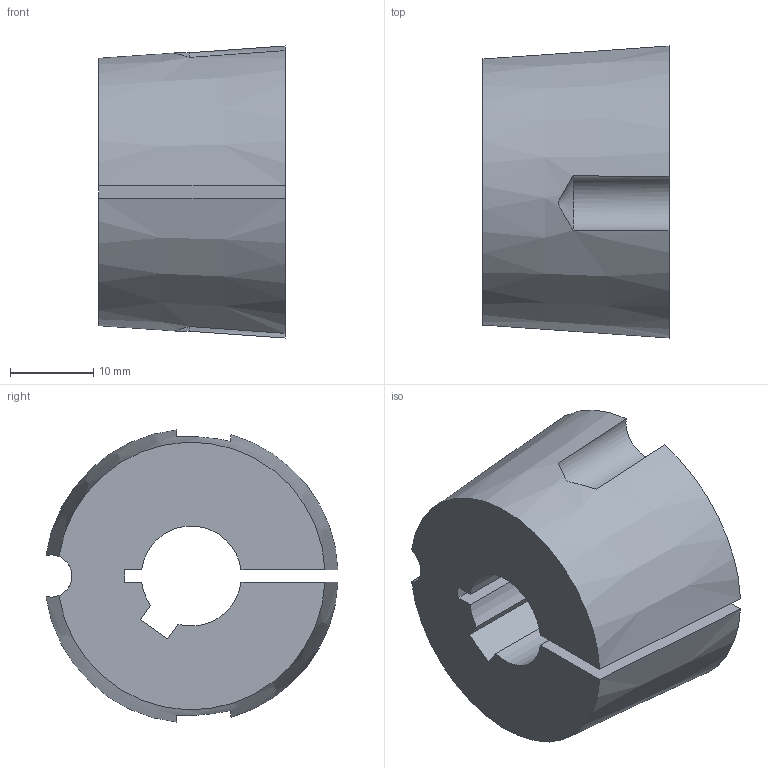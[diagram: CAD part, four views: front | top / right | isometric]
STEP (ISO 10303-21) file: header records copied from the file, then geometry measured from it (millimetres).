
FILE_DESCRIPTION( ( 'STEP AP203' ), '1' );
FILE_NAME( 'D:/export/antriebselemente/spannbuchsen_und_spannsaetze/taper-spannbuchsen_1008_bis_5050/taper-spannbuchsen_62250112Isometric_4.stp', '2018-12-11T11:10:55', ( '' ), ( '' ), ' ', 'PARTsolutions', ' ' );
FILE_SCHEMA( ( 'CONFIG_CONTROL_DESIGN' ) );
Length unit declared in the file: millimetre
Products named in the file (1): _taper-spannbuchsen_62250112
Bounding box: 22.3 x 35.01 x 35.02 mm (x, y, z)
Volume: 16059.8 mm3; surface area: 5407.5 mm2
Topology: 1 solids, 1 shells, 20 faces, 54 edges, 36 vertices
Faces by surface type: plane 10, cylinder 6, cone 4
Entity records: 736 total; most frequent: CARTESIAN_POINT 187, ORIENTED_EDGE 108, DIRECTION 104, EDGE_CURVE 54, AXIS2_PLACEMENT_3D 39, VERTEX_POINT 36, LINE 26, VECTOR 26
